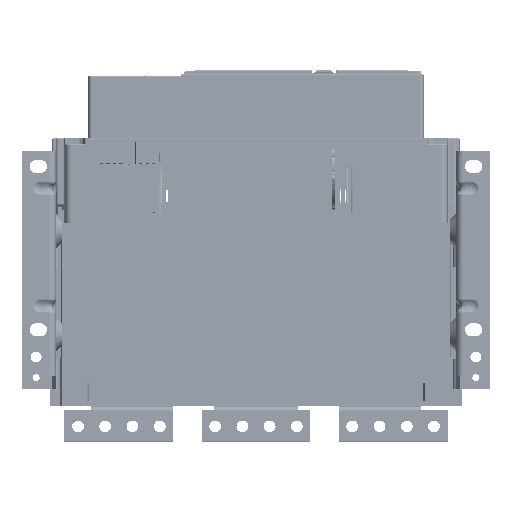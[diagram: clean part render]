
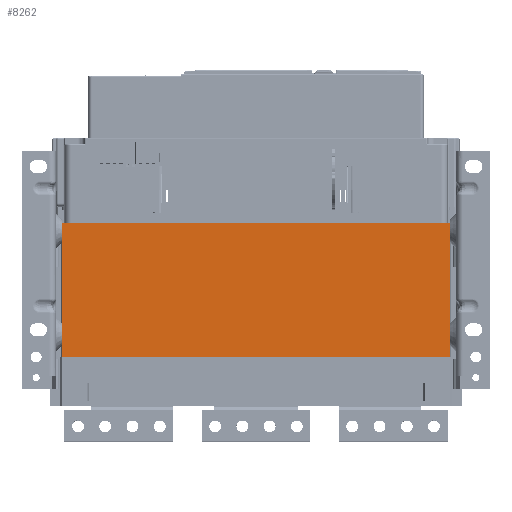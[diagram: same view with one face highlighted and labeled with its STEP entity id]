
A CAD part, top view. The second image highlights one B-rep face of the part: STEP entity #8262.
In plain terms, the highlighted planar face has unit normal (0, 0, 1).
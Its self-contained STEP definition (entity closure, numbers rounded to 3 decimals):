
#438=DIRECTION('',(1.,0.,0.));
#439=VECTOR('',#438,356.);
#440=CARTESIAN_POINT('',(-178.,123.,150.));
#441=LINE('',#440,#439);
#917=DIRECTION('',(1.,0.,0.));
#918=VECTOR('',#917,356.);
#919=CARTESIAN_POINT('',(-178.,0.,150.));
#920=LINE('',#919,#918);
#2924=DIRECTION('',(0.,1.,0.));
#2925=VECTOR('',#2924,123.);
#2926=CARTESIAN_POINT('',(178.,0.,150.));
#2927=LINE('',#2926,#2925);
#3444=DIRECTION('',(0.,1.,0.));
#3445=VECTOR('',#3444,123.);
#3446=CARTESIAN_POINT('',(-178.,0.,150.));
#3447=LINE('',#3446,#3445);
#3811=CARTESIAN_POINT('',(-178.,0.,150.));
#3812=VERTEX_POINT('',#3811);
#3813=CARTESIAN_POINT('',(178.,0.,150.));
#3814=VERTEX_POINT('',#3813);
#3827=CARTESIAN_POINT('',(-178.,123.,150.));
#3828=CARTESIAN_POINT('',(178.,123.,150.));
#3829=VERTEX_POINT('',#3827);
#3830=VERTEX_POINT('',#3828);
#8251=CARTESIAN_POINT('',(-178.,0.,150.));
#8252=DIRECTION('',(0.,0.,1.));
#8253=DIRECTION('',(1.,0.,0.));
#8254=AXIS2_PLACEMENT_3D('',#8251,#8252,#8253);
#8255=PLANE('',#8254);
#8256=ORIENTED_EDGE('',*,*,#5039,.F.);
#8257=ORIENTED_EDGE('',*,*,#7242,.T.);
#8258=ORIENTED_EDGE('',*,*,#4835,.T.);
#8259=ORIENTED_EDGE('',*,*,#7569,.F.);
#8260=EDGE_LOOP('',(#8256,#8257,#8258,#8259));
#8261=FACE_OUTER_BOUND('',#8260,.F.);
#8262=ADVANCED_FACE('',(#8261),#8255,.T.);
#4835=EDGE_CURVE('',#3829,#3830,#441,.T.);
#5039=EDGE_CURVE('',#3812,#3814,#920,.T.);
#7242=EDGE_CURVE('',#3812,#3829,#3447,.T.);
#7569=EDGE_CURVE('',#3814,#3830,#2927,.T.);
